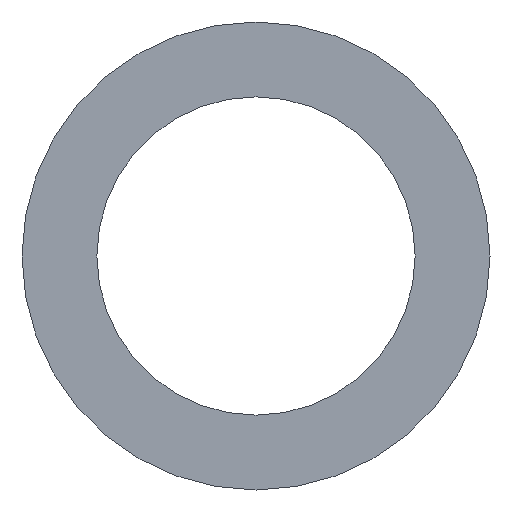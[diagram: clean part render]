
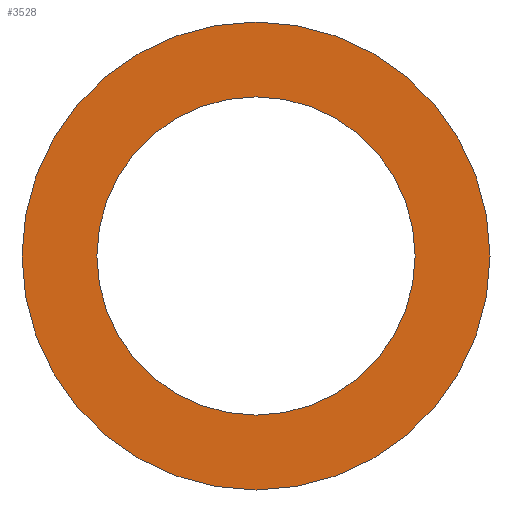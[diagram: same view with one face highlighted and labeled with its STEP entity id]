
A CAD part, front view. The second image highlights one B-rep face of the part: STEP entity #3528.
In plain terms, the highlighted planar face has unit normal (0, -1, 0).
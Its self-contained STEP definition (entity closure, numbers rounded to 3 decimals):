
#233 = CARTESIAN_POINT ( 'NONE',  ( 0., -20., 0. ) ) ;
#262 = DIRECTION ( 'NONE',  ( 0., 0., -1. ) ) ;
#289 = CARTESIAN_POINT ( 'NONE',  ( 0., -20., 0. ) ) ;
#342 = CIRCLE ( 'NONE', #2786, 42.5 ) ;
#647 = AXIS2_PLACEMENT_3D ( 'NONE', #2640, #1073, #2282 ) ;
#888 = DIRECTION ( 'NONE',  ( 0., 0., -1. ) ) ;
#1045 = VERTEX_POINT ( 'NONE', #1506 ) ;
#1073 = DIRECTION ( 'NONE',  ( 0., -1., 0. ) ) ;
#1098 = CARTESIAN_POINT ( 'NONE',  ( 0., -20., -62.5 ) ) ;
#1202 = DIRECTION ( 'NONE',  ( 0., -1., 0. ) ) ;
#1322 = PLANE ( 'NONE',  #3641 ) ;
#1455 = EDGE_CURVE ( 'NONE', #2469, #2134, #3623, .T. ) ;
#1506 = CARTESIAN_POINT ( 'NONE',  ( 0., -20., 62.5 ) ) ;
#1573 = EDGE_LOOP ( 'NONE', ( #3948, #2450 ) ) ;
#1649 = AXIS2_PLACEMENT_3D ( 'NONE', #3404, #2440, #262 ) ;
#1809 = EDGE_CURVE ( 'NONE', #1045, #2833, #3926, .T. ) ;
#1889 = EDGE_CURVE ( 'NONE', #2134, #2469, #342, .T. ) ;
#2039 = ORIENTED_EDGE ( 'NONE', *, *, #1809, .T. ) ;
#2086 = DIRECTION ( 'NONE',  ( 0., 0., -1. ) ) ;
#2134 = VERTEX_POINT ( 'NONE', #2938 ) ;
#2229 = DIRECTION ( 'NONE',  ( 0., 0., 1. ) ) ;
#2282 = DIRECTION ( 'NONE',  ( 0., 0., -1. ) ) ;
#2314 = EDGE_LOOP ( 'NONE', ( #2788, #2039 ) ) ;
#2440 = DIRECTION ( 'NONE',  ( 0., -1., 0. ) ) ;
#2450 = ORIENTED_EDGE ( 'NONE', *, *, #1889, .F. ) ;
#2468 = DIRECTION ( 'NONE',  ( 0., -1., 0. ) ) ;
#2469 = VERTEX_POINT ( 'NONE', #2826 ) ;
#2640 = CARTESIAN_POINT ( 'NONE',  ( 0., -20., 0. ) ) ;
#2785 = FACE_OUTER_BOUND ( 'NONE', #2314, .T. ) ;
#2786 = AXIS2_PLACEMENT_3D ( 'NONE', #289, #2468, #888 ) ;
#2788 = ORIENTED_EDGE ( 'NONE', *, *, #3709, .T. ) ;
#2826 = CARTESIAN_POINT ( 'NONE',  ( 0., -20., -42.5 ) ) ;
#2833 = VERTEX_POINT ( 'NONE', #1098 ) ;
#2917 = CARTESIAN_POINT ( 'NONE',  ( 0., -20., 42.5 ) ) ;
#2938 = CARTESIAN_POINT ( 'NONE',  ( 0., -20., 42.5 ) ) ;
#3137 = FACE_BOUND ( 'NONE', #1573, .T. ) ;
#3404 = CARTESIAN_POINT ( 'NONE',  ( 0., -20., 0. ) ) ;
#3528 = ADVANCED_FACE ( 'NONE', ( #3137, #2785 ), #1322, .F. ) ;
#3603 = AXIS2_PLACEMENT_3D ( 'NONE', #233, #1202, #2086 ) ;
#3623 = CIRCLE ( 'NONE', #3603, 42.5 ) ;
#3641 = AXIS2_PLACEMENT_3D ( 'NONE', #2917, #3869, #2229 ) ;
#3649 = CIRCLE ( 'NONE', #647, 62.5 ) ;
#3709 = EDGE_CURVE ( 'NONE', #2833, #1045, #3649, .T. ) ;
#3869 = DIRECTION ( 'NONE',  ( 0., 1., 0. ) ) ;
#3926 = CIRCLE ( 'NONE', #1649, 62.5 ) ;
#3948 = ORIENTED_EDGE ( 'NONE', *, *, #1455, .F. ) ;
